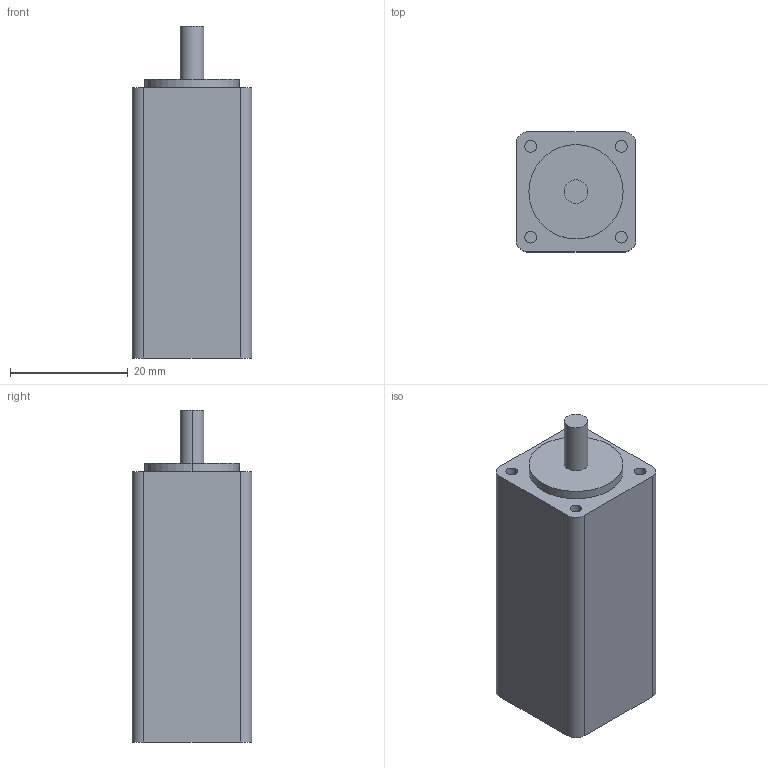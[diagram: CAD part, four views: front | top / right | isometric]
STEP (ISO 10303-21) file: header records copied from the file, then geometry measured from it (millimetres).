
FILE_DESCRIPTION (( 'STEP AP214' ), '1' );
FILE_NAME ('20CM005.STEP', '2018-06-04T11:50:53', ( 'Microsoft' ), ( 'China' ), 'SwSTEP 2.0', 'SolidWorks 2011', '' );
FILE_SCHEMA (( 'AUTOMOTIVE_DESIGN' ));
Length unit declared in the file: millimetre
Products named in the file (1): 20CM005
Bounding box: 20.3 x 20.3 x 56.3 mm (x, y, z)
Volume: 19106 mm3; surface area: 4617.8 mm2
Topology: 1 solids, 1 shells, 28 faces, 60 edges, 40 vertices
Faces by surface type: cylinder 16, plane 12
Entity records: 810 total; most frequent: DIRECTION 150, CARTESIAN_POINT 129, ORIENTED_EDGE 120, AXIS2_PLACEMENT_3D 61, EDGE_CURVE 60, VERTEX_POINT 40, EDGE_LOOP 34, CIRCLE 32
